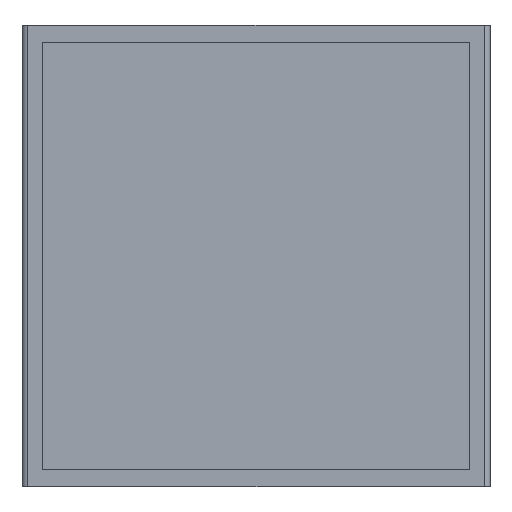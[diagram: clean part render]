
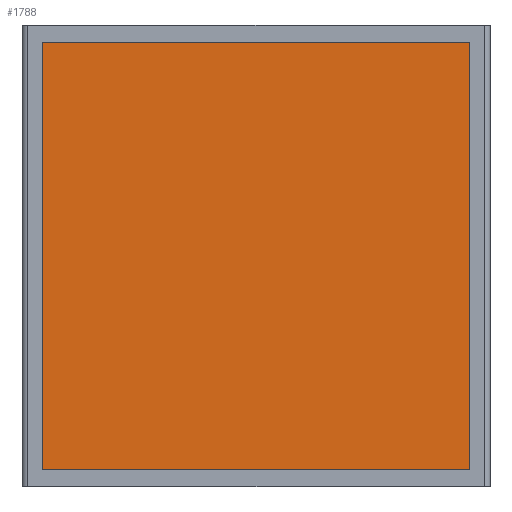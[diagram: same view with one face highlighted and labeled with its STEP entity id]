
A CAD part, front view. The second image highlights one B-rep face of the part: STEP entity #1788.
In plain terms, the highlighted planar face has unit normal (0, -1, 0).
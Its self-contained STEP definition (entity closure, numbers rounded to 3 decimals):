
#156 = DIRECTION ( 'NONE',  ( 1., 0., 0. ) ) ;
#181 = DIRECTION ( 'NONE',  ( 0., 0., -1. ) ) ;
#314 = CARTESIAN_POINT ( 'NONE',  ( -6.476, -1.976, 9.179 ) ) ;
#346 = EDGE_CURVE ( 'NONE', #1936, #455, #621, .T. ) ;
#455 = VERTEX_POINT ( 'NONE', #1539 ) ;
#621 = LINE ( 'NONE', #1644, #1509 ) ;
#794 = PLANE ( 'NONE',  #1270 ) ;
#1131 = LINE ( 'NONE', #3215, #2435 ) ;
#1194 = ORIENTED_EDGE ( 'NONE', *, *, #2572, .F. ) ;
#1270 = AXIS2_PLACEMENT_3D ( 'NONE', #2847, #1319, #2598 ) ;
#1319 = DIRECTION ( 'NONE',  ( 0., 1., 0. ) ) ;
#1321 = LINE ( 'NONE', #2117, #2707 ) ;
#1391 = ORIENTED_EDGE ( 'NONE', *, *, #346, .F. ) ;
#1431 = EDGE_LOOP ( 'NONE', ( #1568, #1194, #2203, #1391 ) ) ;
#1509 = VECTOR ( 'NONE', #156, 1000. ) ;
#1539 = CARTESIAN_POINT ( 'NONE',  ( 12.524, -1.976, 9.179 ) ) ;
#1568 = ORIENTED_EDGE ( 'NONE', *, *, #1599, .F. ) ;
#1599 = EDGE_CURVE ( 'NONE', #1952, #1936, #1321, .T. ) ;
#1644 = CARTESIAN_POINT ( 'NONE',  ( -6.476, -1.976, 9.179 ) ) ;
#1788 = ADVANCED_FACE ( 'NONE', ( #1830 ), #794, .F. ) ;
#1830 = FACE_OUTER_BOUND ( 'NONE', #1431, .T. ) ;
#1936 = VERTEX_POINT ( 'NONE', #314 ) ;
#1939 = LINE ( 'NONE', #3176, #2768 ) ;
#1952 = VERTEX_POINT ( 'NONE', #2352 ) ;
#2117 = CARTESIAN_POINT ( 'NONE',  ( -6.476, -1.976, -9.821 ) ) ;
#2203 = ORIENTED_EDGE ( 'NONE', *, *, #2334, .F. ) ;
#2334 = EDGE_CURVE ( 'NONE', #455, #2966, #1131, .T. ) ;
#2352 = CARTESIAN_POINT ( 'NONE',  ( -6.476, -1.976, -9.821 ) ) ;
#2435 = VECTOR ( 'NONE', #181, 1000. ) ;
#2572 = EDGE_CURVE ( 'NONE', #2966, #1952, #1939, .T. ) ;
#2598 = DIRECTION ( 'NONE',  ( 0., 0., 1. ) ) ;
#2707 = VECTOR ( 'NONE', #3077, 1000. ) ;
#2768 = VECTOR ( 'NONE', #2913, 1000. ) ;
#2773 = CARTESIAN_POINT ( 'NONE',  ( 12.524, -1.976, -9.821 ) ) ;
#2847 = CARTESIAN_POINT ( 'NONE',  ( -6.476, -1.976, 9.179 ) ) ;
#2913 = DIRECTION ( 'NONE',  ( -1., 0., 0. ) ) ;
#2966 = VERTEX_POINT ( 'NONE', #2773 ) ;
#3077 = DIRECTION ( 'NONE',  ( 0., 0., 1. ) ) ;
#3176 = CARTESIAN_POINT ( 'NONE',  ( -6.476, -1.976, -9.821 ) ) ;
#3215 = CARTESIAN_POINT ( 'NONE',  ( 12.524, -1.976, -9.821 ) ) ;
